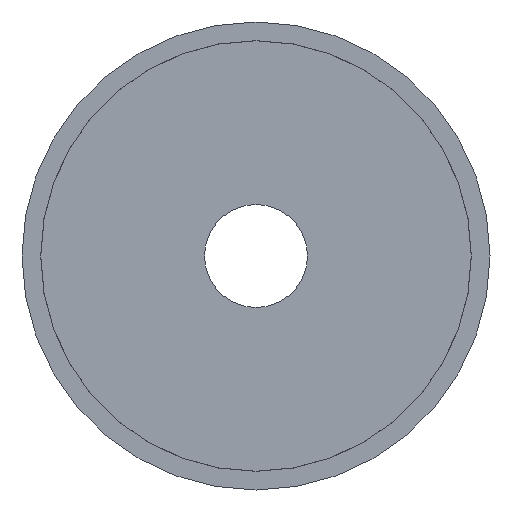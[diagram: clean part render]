
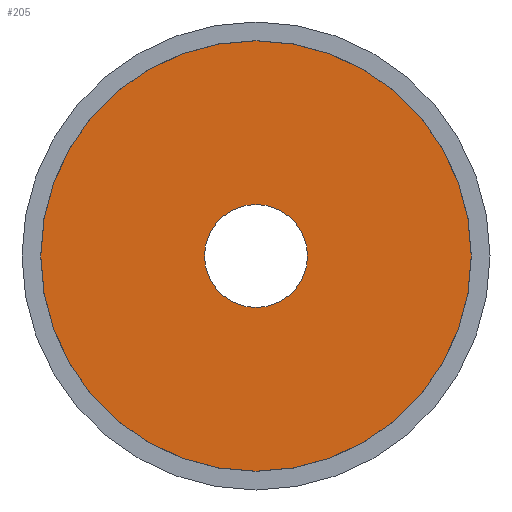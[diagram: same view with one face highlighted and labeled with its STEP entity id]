
A CAD part, front view. The second image highlights one B-rep face of the part: STEP entity #205.
In plain terms, the highlighted planar face has unit normal (0, -1, 0).
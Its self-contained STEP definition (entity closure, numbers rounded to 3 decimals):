
#6 = EDGE_CURVE ( 'NONE', #232, #94, #609, .T. ) ;
#56 = CARTESIAN_POINT ( 'NONE',  ( 0., -12.5, 0. ) ) ;
#77 = CARTESIAN_POINT ( 'NONE',  ( 0., -12.5, 22.99 ) ) ;
#94 = VERTEX_POINT ( 'NONE', #155 ) ;
#102 = CIRCLE ( 'NONE', #387, 5.5 ) ;
#107 = CARTESIAN_POINT ( 'NONE',  ( 0., -12.5, -5.5 ) ) ;
#130 = EDGE_CURVE ( 'NONE', #940, #853, #858, .T. ) ;
#155 = CARTESIAN_POINT ( 'NONE',  ( 0., -12.5, 5.5 ) ) ;
#179 = DIRECTION ( 'NONE',  ( 0., 0., -1. ) ) ;
#205 = ADVANCED_FACE ( 'NONE', ( #750, #230 ), #384, .T. ) ;
#210 = DIRECTION ( 'NONE',  ( 0., 1., 0. ) ) ;
#230 = FACE_OUTER_BOUND ( 'NONE', #767, .T. ) ;
#232 = VERTEX_POINT ( 'NONE', #107 ) ;
#241 = DIRECTION ( 'NONE',  ( 0., -1., 0. ) ) ;
#243 = AXIS2_PLACEMENT_3D ( 'NONE', #601, #702, #686 ) ;
#269 = ORIENTED_EDGE ( 'NONE', *, *, #130, .T. ) ;
#296 = DIRECTION ( 'NONE',  ( 0., -1., 0. ) ) ;
#384 = PLANE ( 'NONE',  #639 ) ;
#387 = AXIS2_PLACEMENT_3D ( 'NONE', #56, #210, #653 ) ;
#399 = ORIENTED_EDGE ( 'NONE', *, *, #752, .T. ) ;
#420 = EDGE_LOOP ( 'NONE', ( #399, #509 ) ) ;
#450 = CARTESIAN_POINT ( 'NONE',  ( 0., -12.5, 0. ) ) ;
#509 = ORIENTED_EDGE ( 'NONE', *, *, #6, .T. ) ;
#511 = DIRECTION ( 'NONE',  ( 0., -1., 0. ) ) ;
#523 = DIRECTION ( 'NONE',  ( 0., 0., -1. ) ) ;
#527 = CIRCLE ( 'NONE', #743, 22.99 ) ;
#535 = DIRECTION ( 'NONE',  ( 0., 0., -1. ) ) ;
#561 = AXIS2_PLACEMENT_3D ( 'NONE', #746, #511, #523 ) ;
#601 = CARTESIAN_POINT ( 'NONE',  ( 0., -12.5, 0. ) ) ;
#609 = CIRCLE ( 'NONE', #243, 5.5 ) ;
#639 = AXIS2_PLACEMENT_3D ( 'NONE', #771, #241, #179 ) ;
#653 = DIRECTION ( 'NONE',  ( 0., 0., 1. ) ) ;
#686 = DIRECTION ( 'NONE',  ( 0., 0., 1. ) ) ;
#702 = DIRECTION ( 'NONE',  ( 0., 1., 0. ) ) ;
#743 = AXIS2_PLACEMENT_3D ( 'NONE', #450, #296, #535 ) ;
#746 = CARTESIAN_POINT ( 'NONE',  ( 0., -12.5, 0. ) ) ;
#750 = FACE_BOUND ( 'NONE', #420, .T. ) ;
#752 = EDGE_CURVE ( 'NONE', #94, #232, #102, .T. ) ;
#767 = EDGE_LOOP ( 'NONE', ( #269, #811 ) ) ;
#771 = CARTESIAN_POINT ( 'NONE',  ( -25., -12.5, 0. ) ) ;
#811 = ORIENTED_EDGE ( 'NONE', *, *, #942, .T. ) ;
#832 = CARTESIAN_POINT ( 'NONE',  ( 0., -12.5, -22.99 ) ) ;
#853 = VERTEX_POINT ( 'NONE', #77 ) ;
#858 = CIRCLE ( 'NONE', #561, 22.99 ) ;
#940 = VERTEX_POINT ( 'NONE', #832 ) ;
#942 = EDGE_CURVE ( 'NONE', #853, #940, #527, .T. ) ;
